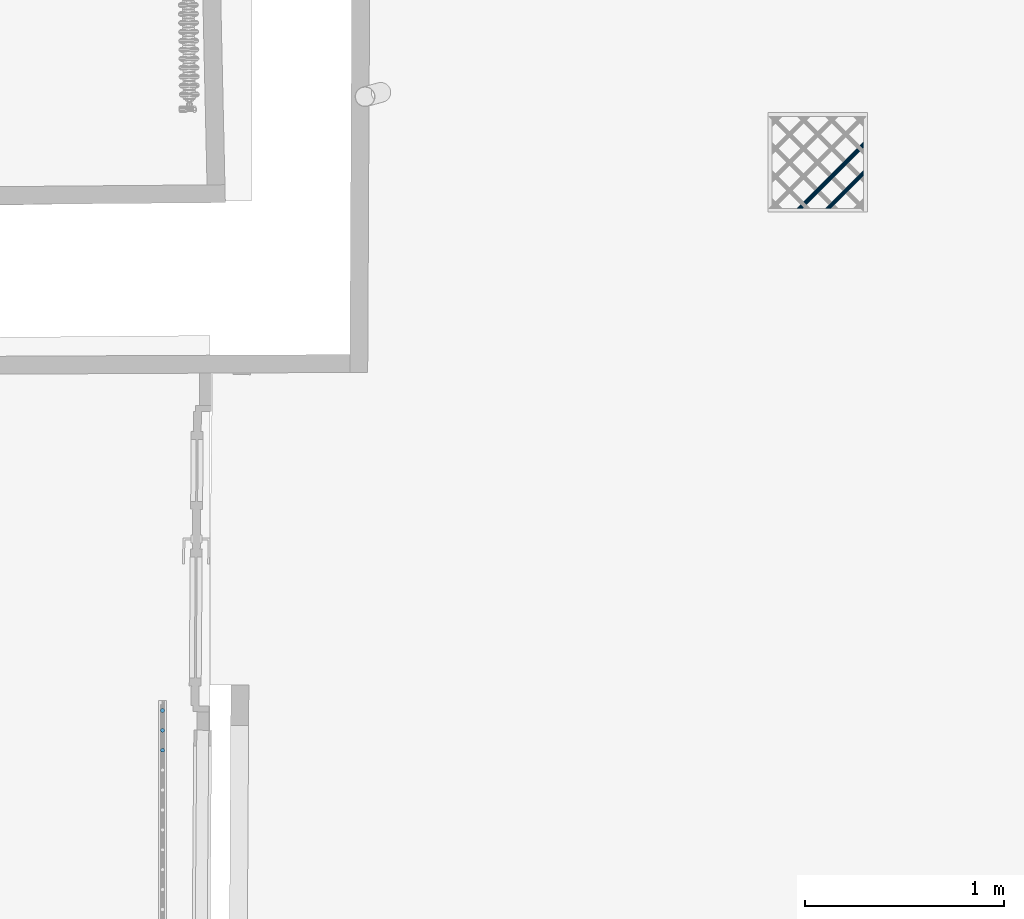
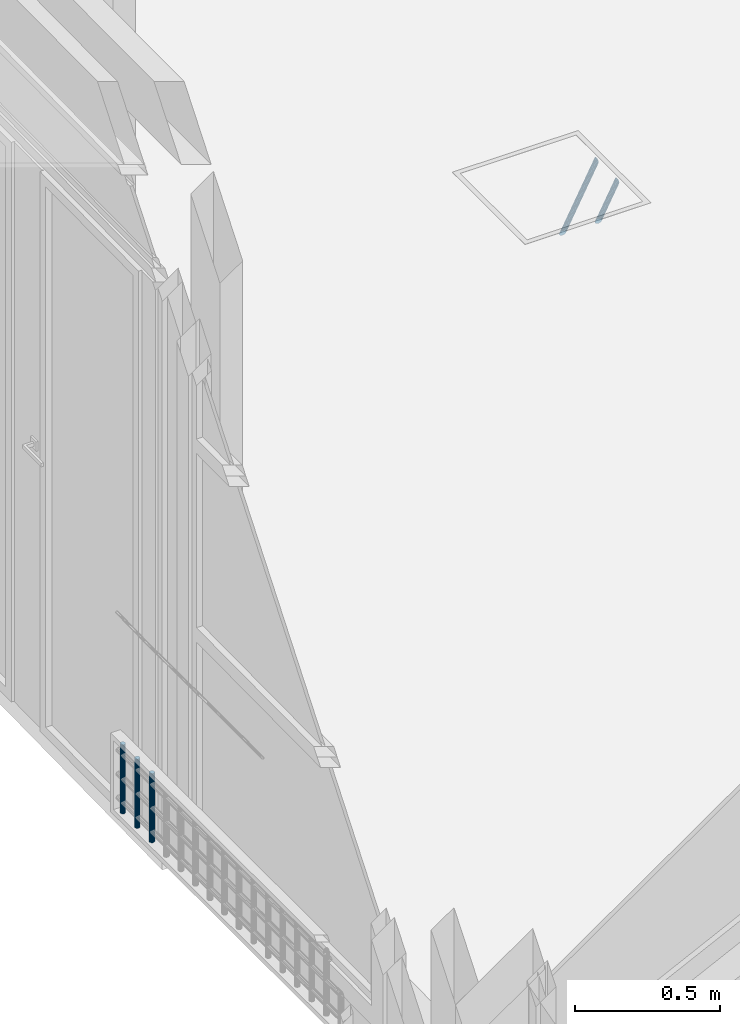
# One storey, part 79 of 133: 5 members, 2 elements without a shape of their own.
"""IFC2X3 building model written with IfcOpenShell, lengths in centimetres."""

from ifc_helpers import new_model, entity, si_unit, converted_unit, direction, frame, origin, origin_with_axes, place, context, subcontext, project, spatial, faceted_brep, material, type_object, element, aggregate, save


model = new_model("IFC2X3")

# Units and contexts
model_context = context("Model", 3, precision=0.0001, world=origin(), true_north=direction((0.225632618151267, 0.974212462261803, 0.0)))
body_context = subcontext(model_context, "Body", "Model", "MODEL_VIEW")
ifc_project = project(units=[si_unit("LENGTHUNIT", "METRE", prefix="CENTI"), si_unit("AREAUNIT", "SQUARE_METRE", prefix="CENTI"), si_unit("VOLUMEUNIT", "CUBIC_METRE", prefix="CENTI"), converted_unit("PLANEANGLEUNIT", "DEGREE", entity("IfcRatioMeasure", 0.0174532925), si_unit("PLANEANGLEUNIT", "RADIAN"), dimensions=[0, 0, 0, 0, 0, 0, 0])], contexts=[model_context])

# Site, building, storey
site_placement = place(None, origin_with_axes())
site = spatial("IfcSite", under=ifc_project, at=site_placement, Name="Default Site", CompositionType="ELEMENT")
building_placement = place(site_placement, origin_with_axes())
building = spatial("IfcBuilding", under=site, at=building_placement, Name="Default Building", CompositionType="ELEMENT")
storey_placement = place(building_placement, frame((0.0, 0.0, -291.400371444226), z_axis=(0.0, 0.0, 1.0), x_axis=(1.0, 0.0, 0.0)))
storey = spatial("IfcBuildingStorey", under=building, at=storey_placement, Name="Rez-de-Jardin", CompositionType="ELEMENT", Elevation=-291.400371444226)

# Assembly, members
building_element_proxy_type = type_object("IfcBuildingElementProxyType", Name="Type Object", PredefinedType="NOTDEFINED")
assembly_1_placement = place(storey_placement, frame((1053.90827276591, -19.9208693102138, 18.0), z_axis=(0.0, 0.0, 1.0), x_axis=(-1.22124532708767e-15, -1.0, 0.0)))
assembly_1 = element("IfcElementAssembly", 1, at=assembly_1_placement, inside=storey, type_object=building_element_proxy_type, Name="Panneau 73504", ObjectType="Precast panel", PredefinedType="USERDEFINED")
ifc_material_1 = material(Name="Beige")
member_1_placement = place(assembly_1_placement, frame((5.93969263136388, 0.3420201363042, 31.0000002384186), z_axis=(0.0, 0.0, 1.0), x_axis=(0.499999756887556, -0.866025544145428, 0.0)))
member_1 = element("IfcMember", 2, at=member_1_placement, material=ifc_material_1, Name="4294966791", context=body_context, shape_type="Brep", body=[
    faceted_brep([(-3.36536354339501e-14, 3.46944695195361e-14, 5.55111512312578e-14), (-0.347296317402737, 3.53883589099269e-14, 5.55111512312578e-14), (-0.673648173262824, -0.118782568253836, 5.55111512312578e-14), (-0.939692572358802, -0.342020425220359, 5.55111512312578e-14), (-1.11334056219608, -0.642787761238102, 5.55111512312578e-14), (-1.1736478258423, -0.984807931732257, 5.55111512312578e-14), (-1.11334042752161, -1.32682817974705, 5.55111512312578e-14), (-0.939692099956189, -1.62759551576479, 5.55111512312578e-14), (-0.673647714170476, -1.8508334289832, 5.55111512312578e-14), (-0.347295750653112, -1.96961548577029, 5.55111512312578e-14), (5.66749590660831e-07, -1.96961548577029, 5.55111512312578e-14), (0.326352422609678, -1.85083291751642, 5.55111512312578e-14), (0.592396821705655, -1.62759506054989, 5.55111512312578e-14), (0.766044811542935, -1.32682772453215, 5.55111512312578e-14), (0.826352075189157, -0.984807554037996, 5.55111512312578e-14), (0.766044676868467, -0.642787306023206, 5.55111512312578e-14), (0.592396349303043, -0.342019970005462, 5.55111512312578e-14), (0.326351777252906, -0.118782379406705, 5.55111512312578e-14), (0.326351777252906, -0.118782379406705, -29.000000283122), (0.592396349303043, -0.342019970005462, -29.000000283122), (0.766044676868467, -0.642787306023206, -29.000000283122), (0.826352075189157, -0.984807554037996, -29.000000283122), (0.766044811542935, -1.32682772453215, -29.000000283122), (0.592396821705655, -1.62759506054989, -29.000000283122), (0.326352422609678, -1.85083291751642, -29.000000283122), (5.66749590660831e-07, -1.96961548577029, -29.000000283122), (-0.347295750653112, -1.96961548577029, -29.000000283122), (-0.673647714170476, -1.8508334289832, -29.000000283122), (-0.939692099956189, -1.62759551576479, -29.000000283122), (-1.11334042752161, -1.32682817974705, -29.000000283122), (-1.1736478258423, -0.984807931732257, -29.000000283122), (-1.11334056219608, -0.642787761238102, -29.000000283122), (-0.939692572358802, -0.342020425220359, -29.000000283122), (-0.673648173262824, -0.118782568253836, -29.000000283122), (-0.347296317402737, 3.53883589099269e-14, -29.000000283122), (-3.36536354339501e-14, 3.46944695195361e-14, -29.000000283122), (0.592396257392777, -0.342020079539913, 5.55111512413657e-14), (0.592396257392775, -0.342020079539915, -29.000000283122), (0.326351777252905, -0.118782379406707, -29.000000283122), (0.766044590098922, -0.642787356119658, 5.55111512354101e-14), (0.766044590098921, -0.642787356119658, -29.000000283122), (0.592396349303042, -0.342019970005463, -29.000000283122), (0.826352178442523, -0.984807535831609, 5.55111512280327e-14), (0.826352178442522, -0.98480753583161, -29.000000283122), (0.766044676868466, -0.642787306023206, -29.000000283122), (0.76604479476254, -1.32682772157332, 5.55111512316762e-14), (0.76604479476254, -1.32682772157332, -29.000000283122), (0.826352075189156, -0.984807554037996, -29.000000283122), (0.326352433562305, -1.85083293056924, 5.55111512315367e-14), (0.326352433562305, -1.85083293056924, -29.000000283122), (0.592396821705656, -1.62759506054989, -29.000000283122), (5.30890045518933e-07, -1.96961538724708, 5.55111512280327e-14), (5.30890045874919e-07, -1.96961538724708, -29.000000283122), (-0.347295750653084, -1.96961558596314, 5.55111512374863e-14), (-0.347295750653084, -1.96961558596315, -29.000000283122), (5.66749590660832e-07, -1.96961548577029, -29.000000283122), (-0.673647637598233, -1.85083321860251, 5.55111512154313e-14), (-0.673647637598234, -1.85083321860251, -29.000000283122), (-0.347295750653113, -1.96961548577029, -29.000000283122), (-0.939692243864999, -1.62759568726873, 5.55111512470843e-14), (-0.939692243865, -1.62759568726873, -29.000000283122), (-0.673647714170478, -1.85083342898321, -29.000000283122), (-1.11334034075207, -1.3268281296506, 5.55111512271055e-14), (-1.11334034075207, -1.3268281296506, -29.000000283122), (-0.93969209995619, -1.62759551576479, -29.000000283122), (-1.17364792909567, -0.984807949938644, 5.55111512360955e-14), (-1.17364792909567, -0.984807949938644, -29.000000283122), (-1.11334054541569, -0.642787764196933, 5.55111512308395e-14), (-1.11334054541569, -0.642787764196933, -29.000000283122), (-0.673648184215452, -0.118782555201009, 5.55111512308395e-14), (-0.673648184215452, -0.11878255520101, -29.000000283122), (-0.939692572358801, -0.342020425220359, -29.000000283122), (-0.347296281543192, -9.85231767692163e-08, 5.55111512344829e-14), (-0.347296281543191, -9.8523177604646e-08, -29.000000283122), (-0.673648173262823, -0.118782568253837, -29.000000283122), (-6.25586590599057e-14, 1.00192890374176e-07, 5.55111512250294e-14), (-6.25586585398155e-14, 1.00192888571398e-07, -29.000000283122), (-0.347296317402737, 3.358558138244e-14, -29.000000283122), (0.326351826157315, -0.118782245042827, 5.55111512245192e-14), (0.326351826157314, -0.118782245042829, -29.000000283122), (-3.41210724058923e-14, 3.3410195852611e-14, -29.000000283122)], [[[0, 1, 2, 3, 4, 5, 6, 7, 8, 9, 10, 11, 12, 13, 14, 15, 16, 17]], [[18, 19, 20, 21, 22, 23, 24, 25, 26, 27, 28, 29, 30, 31, 32, 33, 34, 35]], [[17, 36, 37, 38]], [[16, 39, 40, 41]], [[15, 42, 43, 44]], [[14, 45, 46, 47]], [[13, 12, 23, 22]], [[12, 48, 49, 50]], [[11, 51, 52, 24]], [[10, 53, 54, 55]], [[9, 56, 57, 58]], [[8, 59, 60, 61]], [[7, 62, 63, 64]], [[6, 65, 66, 29]], [[5, 67, 68, 30]], [[4, 3, 32, 31]], [[3, 69, 70, 71]], [[2, 72, 73, 74]], [[1, 75, 76, 77]], [[0, 78, 79, 80]]]),
])
member_2_placement = place(assembly_1_placement, frame((15.9396931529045, 0.3420201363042, 31.0000002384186), z_axis=(0.0, 0.0, 1.0), x_axis=(0.500002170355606, -0.866024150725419, 0.0)))
member_2 = element("IfcMember", 3, at=member_2_placement, material=ifc_material_1, Name="4294966790", context=body_context, shape_type="Brep", body=[
    faceted_brep([(-1.23512311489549e-13, -4.9960036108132e-14, 4.44089209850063e-14), (-0.347296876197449, -4.71844785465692e-14, 4.44089209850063e-14), (-0.673648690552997, -0.118781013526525, 4.44089209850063e-14), (-0.939693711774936, -0.342018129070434, 4.44089209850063e-14), (-1.11334291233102, -0.642785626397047, 4.44089209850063e-14), (-1.17365112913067, -0.984805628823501, 4.44089209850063e-14), (-1.11334431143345, -1.32682539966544, 4.44089209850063e-14), (-0.939696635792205, -1.62759289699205, 4.44089209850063e-14), (-0.673653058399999, -1.85083187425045, 4.44089209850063e-14), (-0.34730123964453, -1.96961451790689, 4.44089209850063e-14), (-5.10850849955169e-06, -1.96961580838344, 4.44089209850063e-14), (0.326346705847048, -1.85083479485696, 4.44089209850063e-14), (0.592391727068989, -1.62759767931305, 4.44089209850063e-14), (0.766040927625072, -1.32683018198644, 4.44089209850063e-14), (0.826349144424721, -0.984810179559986, 4.44089209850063e-14), (0.766042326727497, -0.64279040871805, 4.44089209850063e-14), (0.592395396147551, -0.34202162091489, 4.44089209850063e-14), (0.326351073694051, -0.11878393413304, 4.44089209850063e-14), (0.326351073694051, -0.11878393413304, -29.000000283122), (0.592395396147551, -0.34202162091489, -29.000000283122), (0.766042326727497, -0.64279040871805, -29.000000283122), (0.826349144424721, -0.984810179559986, -29.000000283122), (0.766040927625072, -1.32683018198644, -29.000000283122), (0.592391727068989, -1.62759767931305, -29.000000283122), (0.326346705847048, -1.85083479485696, -29.000000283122), (-5.10850849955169e-06, -1.96961580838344, -29.000000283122), (-0.34730123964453, -1.96961451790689, -29.000000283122), (-0.673653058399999, -1.85083187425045, -29.000000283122), (-0.939696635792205, -1.62759289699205, -29.000000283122), (-1.11334431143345, -1.32682539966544, -29.000000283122), (-1.17365112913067, -0.984805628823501, -29.000000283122), (-1.11334291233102, -0.642785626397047, -29.000000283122), (-0.939693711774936, -0.342018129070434, -29.000000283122), (-0.673648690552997, -0.118781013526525, -29.000000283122), (-0.347296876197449, -4.71844785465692e-14, -29.000000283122), (-1.23512311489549e-13, -4.9960036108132e-14, -29.000000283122), (0.59239483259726, -0.342022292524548, 4.44089210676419e-14), (0.592394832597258, -0.34202229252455, -29.000000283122), (0.326351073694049, -0.118783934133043, -29.000000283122), (0.766043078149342, -0.642789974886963, 4.44089209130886e-14), (0.76604307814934, -0.642789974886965, -29.000000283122), (0.592395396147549, -0.342021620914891, -29.000000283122), (0.826348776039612, -0.984810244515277, 4.44089210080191e-14), (0.82634877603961, -0.984810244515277, -29.000000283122), (0.766042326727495, -0.64279040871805, -29.000000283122), (0.766040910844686, -1.32683017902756, 4.4408920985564e-14), (0.766040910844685, -1.32683017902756, -29.000000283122), (0.82634914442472, -0.984810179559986, -29.000000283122), (0.326346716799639, -1.85083480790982, 4.4408920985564e-14), (0.32634671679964, -1.85083480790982, -29.000000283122), (-4.98057063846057e-06, -1.96961615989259, 4.44089210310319e-14), (-4.98057063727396e-06, -1.96961615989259, -29.000000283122), (0.32634670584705, -1.85083479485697, -29.000000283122), (-0.347301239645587, -1.96961494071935, 4.44089210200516e-14), (-0.347301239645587, -1.96961494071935, -29.000000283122), (-0.673652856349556, -1.85083131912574, 4.4408920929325e-14), (-0.673652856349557, -1.85083131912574, -29.000000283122), (-0.347301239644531, -1.96961451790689, -29.000000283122), (-0.939697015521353, -1.62759334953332, 4.44089210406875e-14), (-0.939697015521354, -1.62759334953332, -29.000000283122), (-0.673653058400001, -1.85083187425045, -29.000000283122), (-1.11334394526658, -1.32682518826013, 4.44089209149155e-14), (-1.11334394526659, -1.32682518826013, -29.000000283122), (-0.939696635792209, -1.62759289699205, -29.000000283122), (-1.17365076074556, -0.98480556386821, 4.44089209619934e-14), (-1.17365076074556, -0.984805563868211, -29.000000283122), (-1.11334289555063, -0.642785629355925, 4.44089209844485e-14), (-1.11334289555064, -0.642785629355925, -29.000000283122), (-0.939693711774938, -0.342018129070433, 4.44089209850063e-14), (-0.939693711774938, -0.342018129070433, -29.000000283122), (-0.673648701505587, -0.11878100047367, 4.44089209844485e-14), (-0.673648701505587, -0.118781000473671, -29.000000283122), (-0.939693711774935, -0.342018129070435, -29.000000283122), (-0.34729700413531, 3.51509102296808e-07, 4.44089209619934e-14), (-0.347297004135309, 3.51509100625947e-07, -29.000000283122), (-0.673648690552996, -0.118781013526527, -29.000000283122), (-2.29123754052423e-12, -8.67665998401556e-07, 4.44089210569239e-14), (-2.2912375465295e-12, -8.67666000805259e-07, -29.000000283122), (-0.347296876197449, -4.9588182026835e-14, -29.000000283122), (0.32635137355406, -0.118783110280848, 4.44089209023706e-14), (0.326351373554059, -0.11878311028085, -29.000000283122), (-1.24447192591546e-13, -5.25285808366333e-14, -29.000000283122)], [[[0, 1, 2, 3, 4, 5, 6, 7, 8, 9, 10, 11, 12, 13, 14, 15, 16, 17]], [[18, 19, 20, 21, 22, 23, 24, 25, 26, 27, 28, 29, 30, 31, 32, 33, 34, 35]], [[17, 36, 37, 38]], [[16, 39, 40, 41]], [[15, 42, 43, 44]], [[14, 45, 46, 47]], [[13, 12, 23, 22]], [[12, 48, 49, 23]], [[11, 50, 51, 52]], [[10, 53, 54, 25]], [[9, 55, 56, 57]], [[8, 58, 59, 60]], [[7, 61, 62, 63]], [[6, 64, 65, 29]], [[5, 66, 67, 30]], [[4, 68, 69, 31]], [[3, 70, 71, 72]], [[2, 73, 74, 75]], [[1, 76, 77, 78]], [[0, 79, 80, 81]]]),
])
member_3_placement = place(assembly_1_placement, frame((25.9396940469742, 0.3420201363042, 31.0000002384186), z_axis=(0.0, 0.0, 1.0), x_axis=(0.500002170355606, -0.866024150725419, 0.0)))
member_3 = element("IfcMember", 4, at=member_3_placement, material=ifc_material_1, Name="4294966789", context=body_context, shape_type="Brep", body=[
    faceted_brep([(-5.55111512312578e-15, -7.21644966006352e-14, 4.44089209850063e-14), (-0.347296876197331, -7.21644966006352e-14, 4.44089209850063e-14), (-0.673649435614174, -0.118782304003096, 4.44089209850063e-14), (-0.939693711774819, -0.342018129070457, 4.44089209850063e-14), (-1.1133429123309, -0.642785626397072, 4.44089209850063e-14), (-1.17365112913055, -0.984805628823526, 4.44089209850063e-14), (-1.11334505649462, -1.32682669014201, 4.44089209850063e-14), (-0.939697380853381, -1.62759418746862, 4.44089209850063e-14), (-0.673653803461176, -1.85083316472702, 4.44089209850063e-14), (-0.347301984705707, -1.96961580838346, 4.44089209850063e-14), (-5.85356967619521e-06, -1.96961709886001, 4.44089209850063e-14), (0.326346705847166, -1.85083479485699, 4.44089209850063e-14), (0.592391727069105, -1.62759767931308, 4.44089209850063e-14), (0.766040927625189, -1.32683018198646, 4.44089209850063e-14), (0.826348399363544, -0.984811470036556, 4.44089209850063e-14), (0.766042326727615, -0.642790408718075, 4.44089209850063e-14), (0.592395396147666, -0.342021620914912, 4.44089209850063e-14), (0.326350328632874, -0.118785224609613, 4.44089209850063e-14), (0.326350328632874, -0.118785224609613, -29.000000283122), (0.592395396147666, -0.342021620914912, -29.000000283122), (0.766042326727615, -0.642790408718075, -29.000000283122), (0.826348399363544, -0.984811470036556, -29.000000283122), (0.766040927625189, -1.32683018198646, -29.000000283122), (0.592391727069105, -1.62759767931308, -29.000000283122), (0.326346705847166, -1.85083479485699, -29.000000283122), (-5.85356967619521e-06, -1.96961709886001, -29.000000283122), (-0.347301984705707, -1.96961580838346, -29.000000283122), (-0.673653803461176, -1.85083316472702, -29.000000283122), (-0.939697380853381, -1.62759418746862, -29.000000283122), (-1.11334505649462, -1.32682669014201, -29.000000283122), (-1.17365112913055, -0.984805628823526, -29.000000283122), (-1.1133429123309, -0.642785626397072, -29.000000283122), (-0.939693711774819, -0.342018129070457, -29.000000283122), (-0.673649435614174, -0.118782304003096, -29.000000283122), (-0.347296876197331, -7.21644966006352e-14, -29.000000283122), (-5.55111512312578e-15, -7.21644966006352e-14, -29.000000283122), (0.592393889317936, -0.342023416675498, 4.44089209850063e-14), (0.592393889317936, -0.342023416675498, -29.000000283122), (0.766043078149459, -0.642789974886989, 4.4408920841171e-14), (0.766043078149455, -0.642789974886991, -29.000000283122), (0.592395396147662, -0.342021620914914, -29.000000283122), (0.826348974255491, -0.984811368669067, 4.44089209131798e-14), (0.826348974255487, -0.984811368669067, -29.000000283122), (0.766042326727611, -0.642790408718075, -29.000000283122), (0.766040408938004, -1.32683009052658, 4.44089210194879e-14), (0.766040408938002, -1.32683009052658, -29.000000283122), (0.826348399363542, -0.984811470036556, -29.000000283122), (0.592391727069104, -1.62759767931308, 4.44089209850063e-14), (0.592391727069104, -1.62759767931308, -29.000000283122), (0.326346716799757, -1.85083480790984, 4.4408920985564e-14), (0.326346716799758, -1.85083480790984, -29.000000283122), (0.592391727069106, -1.62759767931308, -29.000000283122), (-6.05322607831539e-06, -1.96961655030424, 4.44089209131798e-14), (-6.05322607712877e-06, -1.96961655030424, -29.000000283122), (0.326346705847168, -1.85083479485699, -29.000000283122), (-0.347301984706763, -1.96961623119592, 4.44089210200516e-14), (-0.347301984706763, -1.96961623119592, -29.000000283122), (-5.85356967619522e-06, -1.96961709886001, -29.000000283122), (-0.673653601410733, -1.85083260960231, 4.4408920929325e-14), (-0.673653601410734, -1.85083260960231, -29.000000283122), (-0.347301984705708, -1.96961580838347, -29.000000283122), (-0.939697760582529, -1.62759464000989, 4.44089210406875e-14), (-0.939697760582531, -1.62759464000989, -29.000000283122), (-0.673653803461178, -1.85083316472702, -29.000000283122), (-1.11334469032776, -1.3268264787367, 4.44089209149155e-14), (-1.11334469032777, -1.3268264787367, -29.000000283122), (-0.939697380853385, -1.62759418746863, -29.000000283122), (-1.1736517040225, -0.984805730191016, 4.44089210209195e-14), (-1.1736517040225, -0.984805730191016, -29.000000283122), (-1.11334289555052, -0.64278562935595, 4.44089209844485e-14), (-1.11334289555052, -0.64278562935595, -29.000000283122), (-0.939693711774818, -0.342018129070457, 4.44089209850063e-14), (-0.939693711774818, -0.342018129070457, -29.000000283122), (-0.673649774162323, -0.118781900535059, 4.44089209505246e-14), (-0.673649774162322, -0.118781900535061, -29.000000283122), (-0.939693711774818, -0.342018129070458, -29.000000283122), (-0.347296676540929, -5.48555845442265e-07, 4.44089210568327e-14), (-0.347296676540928, -5.48555848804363e-07, -29.000000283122), (-0.673649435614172, -0.118782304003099, -29.000000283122), (-2.1732763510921e-12, -8.67666023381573e-07, 4.44089209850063e-14), (-2.1732763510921e-12, -8.67666023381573e-07, -29.000000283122), (0.326351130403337, -0.118783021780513, 4.44089205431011e-14), (0.326351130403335, -0.118783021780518, -29.000000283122), (-7.42087732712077e-15, -7.73015860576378e-14, -29.000000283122)], [[[0, 1, 2, 3, 4, 5, 6, 7, 8, 9, 10, 11, 12, 13, 14, 15, 16, 17]], [[18, 19, 20, 21, 22, 23, 24, 25, 26, 27, 28, 29, 30, 31, 32, 33, 34, 35]], [[17, 36, 37, 18]], [[16, 38, 39, 40]], [[15, 41, 42, 43]], [[14, 44, 45, 46]], [[13, 47, 48, 22]], [[12, 49, 50, 51]], [[11, 52, 53, 54]], [[10, 55, 56, 57]], [[9, 58, 59, 60]], [[8, 61, 62, 63]], [[7, 64, 65, 66]], [[6, 67, 68, 29]], [[5, 69, 70, 30]], [[4, 71, 72, 31]], [[3, 73, 74, 75]], [[2, 76, 77, 78]], [[1, 79, 80, 34]], [[0, 81, 82, 83]]]),
])
aggregate(assembly_1, [member_1, member_2, member_3])

assembly_2_placement = place(storey_placement, frame((1358.14143246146, 225.4756620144, -2.0), z_axis=(0.0, 1.0, -2.38697950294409e-15), x_axis=(1.0, 0.0, 0.0)))
assembly_2 = element("IfcElementAssembly", 5, at=assembly_2_placement, inside=storey, type_object=building_element_proxy_type, Name="Panneau 134273", ObjectType="Precast panel", PredefinedType="USERDEFINED")
ifc_material_2 = material(Name="Aluminium satiné")
member_4_placement = place(assembly_2_placement, frame((47.9999989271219, 0.34202013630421, 32.5289368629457), z_axis=(0.999999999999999, 0.0, 0.0), x_axis=(0.0, -0.774594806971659, -0.632457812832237)))
member_4 = element("IfcMember", 6, at=member_4_placement, material=ifc_material_2, Name="4294966697", context=body_context, shape_type="Brep", body=[
    faceted_brep([(3.05311331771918e-14, -3.60822483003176e-14, 2.22044604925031e-14), (-0.388290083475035, -3.88578058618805e-14, 2.22044604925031e-14), (-0.799166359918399, -0.150246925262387, 2.22044604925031e-14), (-1.18307514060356, -0.432623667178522, 2.22044604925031e-14), (-1.49370756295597, -0.813066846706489, 2.22044604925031e-14), (-1.69359804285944, -1.24569095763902, 2.22044604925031e-14), (-1.7586366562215, -1.67831484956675, 2.22044604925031e-14), (-1.68098087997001, -2.05876033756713, 2.22044604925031e-14), (-1.4699932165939, -2.34113520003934, 2.22044604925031e-14), (-1.15112683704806, -2.49138695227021, 2.22044604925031e-14), (-0.762836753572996, -2.49138695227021, 2.22044604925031e-14), (-0.351960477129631, -2.34114002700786, 2.22044604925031e-14), (0.0319464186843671, -2.05876559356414, 2.22044604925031e-14), (0.342578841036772, -1.67832241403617, 2.22044604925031e-14), (0.54247120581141, -1.24569599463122, 2.22044604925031e-14), (0.607509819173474, -0.813072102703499, 2.22044604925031e-14), (0.529854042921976, -0.432626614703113, 2.22044604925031e-14), (0.318866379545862, -0.150251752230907, 2.22044604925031e-14), (19.5731916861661, 23.4312426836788, -30.4436504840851), (19.8381187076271, 23.2149293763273, -30.5289372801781), (20.0710916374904, 23.0247066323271, -30.774512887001), (20.244010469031, 22.8835181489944, -31.1507567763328), (20.3360186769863, 22.80839331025, -31.6122874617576), (20.3360186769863, 22.80839331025, -32.1034386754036), (20.244010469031, 22.8835181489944, -32.5649693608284), (20.0710916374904, 23.0247066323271, -32.9412132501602), (19.8381187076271, 23.2149293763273, -33.1867888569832), (19.5731916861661, 23.4312426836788, -33.2720771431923), (19.3082646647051, 23.6475559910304, -33.1867888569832), (19.0752917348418, 23.8377787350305, -32.9412132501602), (18.9023729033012, 23.9789672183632, -32.5649693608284), (18.8103646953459, 24.0540920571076, -32.1034386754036), (18.8103646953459, 24.0540920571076, -31.6122874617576), (18.9023729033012, 23.9789672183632, -31.1507567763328), (19.0752917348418, 23.8377787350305, -30.774512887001), (19.3082646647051, 23.6475559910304, -30.5289372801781), (0.529853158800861, -0.432627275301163, -1.07086510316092e-06), (19.8381179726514, 23.2149288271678, -30.5289381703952), (19.5731912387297, 23.4312423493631, -30.4436510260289), (0.607510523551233, -0.813071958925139, 5.56859210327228e-07), (20.0710918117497, 23.0247066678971, -30.774512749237), (19.8381188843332, 23.2149294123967, -30.5289371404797), (0.542470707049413, -1.24569591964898, -2.57365044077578e-07), (20.2440101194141, 22.8835182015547, -31.1507569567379), (20.0710911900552, 23.024706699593, -30.7745131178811), (0.342579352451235, -1.67832265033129, 1.40415126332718e-07), (20.3360186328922, 22.8083933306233, -31.6122874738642), (20.2440105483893, 22.8835181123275, -31.150756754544), (-0.351960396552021, -2.34114013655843, -3.3895342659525e-08), (20.2440109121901, 22.8835175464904, -32.5649695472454), (20.3360190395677, 22.8083928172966, -32.1034388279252), (-0.762836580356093, -2.49138742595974, -2.57365044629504e-07), (20.0710919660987, 23.0247057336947, -32.9412137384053), (20.244010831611, 22.883517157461, -32.5649698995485), (-1.15112683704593, -2.4913862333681, 5.56859211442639e-07), (19.8381187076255, 23.2149288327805, -33.1867892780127), (20.0710916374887, 23.0247060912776, -32.9412136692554), (-1.46999368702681, -2.34113619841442, -1.07086510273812e-06), (19.5731912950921, 23.4312418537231, -33.2720780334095), (19.8381181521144, 23.2149281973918, -33.1867901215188), (-1.6809799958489, -2.05875967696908, 1.07086514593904e-06), (19.308264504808, 23.6475558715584, -33.1867890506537), (19.5731918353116, 23.4312427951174, -33.2720769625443), (-1.75863736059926, -1.67831499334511, -5.56859166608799e-07), (19.0752905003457, 23.8377784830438, -32.9412142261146), (19.3082634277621, 23.6475557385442, -33.1867898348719), (-1.69359754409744, -1.24569103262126, 2.57365088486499e-07), (18.9023723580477, 23.9789673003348, -32.5649696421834), (19.0752912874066, 23.8377788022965, -32.9412134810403), (-1.49370743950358, -0.813066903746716, 3.38953879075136e-08), (18.8103642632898, 24.0540922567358, -32.1034387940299), (18.9023723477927, 23.9789674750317, -32.5649695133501), (-0.799166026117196, -0.150247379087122, -1.40415081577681e-07), (18.902373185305, 23.9789668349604, -31.1507568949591), (18.8103650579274, 24.0540915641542, -31.6122876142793), (-0.388290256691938, 4.73689491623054e-07, 2.57365089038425e-07), (19.0752917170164, 23.8377787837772, -30.774512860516), (18.9023728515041, 23.9789673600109, -31.1507566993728), (-2.09909421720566e-12, -7.18902149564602e-07, -5.56859168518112e-07), (19.3082646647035, 23.6475554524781, -30.5289376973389), (19.0752917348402, 23.837778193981, -30.7745133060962), (0.318866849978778, -0.150250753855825, 1.07086514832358e-06), (19.5731919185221, 23.4312431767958, -30.4436499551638), (19.3082647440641, 23.6475561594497, -30.5289370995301)], [[[0, 1, 2, 3, 4, 5, 6, 7, 8, 9, 10, 11, 12, 13, 14, 15, 16, 17]], [[18, 19, 20, 21, 22, 23, 24, 25, 26, 27, 28, 29, 30, 31, 32, 33, 34, 35]], [[17, 36, 37, 38]], [[16, 39, 40, 41]], [[15, 42, 43, 44]], [[14, 45, 46, 47]], [[13, 12, 23, 22]], [[12, 48, 49, 50]], [[11, 51, 52, 53]], [[10, 54, 55, 56]], [[9, 57, 58, 59]], [[8, 60, 61, 62]], [[7, 63, 64, 65]], [[6, 66, 67, 68]], [[5, 69, 70, 71]], [[4, 3, 32, 31]], [[3, 72, 73, 74]], [[2, 75, 76, 77]], [[1, 78, 79, 80]], [[0, 81, 82, 83]]]),
])
member_5_placement = place(assembly_2_placement, frame((47.9999989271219, 0.3420201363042, 18.3868020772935), z_axis=(0.999999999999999, 0.0, 0.0), x_axis=(0.0, -0.774596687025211, -0.632455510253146)))
member_5 = element("IfcMember", 7, at=member_5_placement, material=ifc_material_2, Name="4294966696", context=body_context, shape_type="Brep", body=[
    faceted_brep([(8.32667268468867e-15, -6.93889390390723e-14, -1.55431223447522e-13), (-0.388289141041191, -6.66133814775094e-14, -1.55431223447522e-13), (-0.799165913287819, -0.150249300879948, -1.55431223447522e-13), (-1.18307291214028, -0.432626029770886, -1.55431223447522e-13), (-1.49370420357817, -0.813070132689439, -1.55431223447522e-13), (-1.69359339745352, -1.24569483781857, -1.55431223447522e-13), (-1.75863166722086, -1.6783200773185, -1.55431223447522e-13), (-1.68097381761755, -2.05876418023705, -1.55431223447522e-13), (-1.46998625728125, -2.3411395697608, -1.55431223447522e-13), (-1.15111848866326, -2.4913892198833, -1.55431223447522e-13), (-0.76282934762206, -2.4913892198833, -1.55431223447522e-13), (-0.35195257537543, -2.34113991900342, -1.55431223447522e-13), (0.0319534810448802, -2.05876434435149, -1.55431223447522e-13), (0.342584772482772, -1.67832024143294, -1.55431223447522e-13), (0.542474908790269, -1.2456943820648, -1.55431223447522e-13), (0.607513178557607, -0.813069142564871, -1.55431223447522e-13), (0.529855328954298, -0.432625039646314, -1.55431223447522e-13), (0.318867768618, -0.150249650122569, -1.55431223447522e-13), (10.628850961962, 12.4768501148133, -16.3015127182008), (10.8937786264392, 12.2605375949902, -16.3868010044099), (11.1267521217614, 12.0703155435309, -16.632378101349), (11.2996713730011, 11.9291275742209, -17.0086205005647), (11.3916798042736, 11.8540030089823, -17.4701511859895), (11.3916798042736, 11.8540030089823, -17.9613023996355), (11.2996713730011, 11.9291275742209, -18.4228330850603), (11.1267521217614, 12.0703155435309, -18.7990784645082), (10.8937786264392, 12.2605375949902, -19.0446525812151), (10.628850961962, 12.4768501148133, -19.1299408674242), (10.3639232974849, 12.6931626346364, -19.0446525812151), (10.1309498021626, 12.8833846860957, -18.7990784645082), (9.95803055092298, 13.0245726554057, -18.4228330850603), (9.8660221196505, 13.0996972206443, -17.9613023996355), (9.8660221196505, 13.0996972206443, -17.4701511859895), (9.95803055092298, 13.0245726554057, -17.0086205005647), (10.1309498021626, 12.8833846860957, -16.632378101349), (10.3639232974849, 12.6931626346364, -16.3868010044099), (0.529855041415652, -0.432625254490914, -3.482734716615e-07), (10.8937778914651, 12.2605370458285, -16.3868018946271), (10.6288499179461, 12.4768493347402, -16.3015139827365), (0.607513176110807, -0.813069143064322, -1.93452124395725e-09), (11.1267522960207, 12.0703155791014, -16.632377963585), (10.8937780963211, 12.2605374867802, -16.3868014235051), (0.542475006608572, -1.24569439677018, 5.04748265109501e-08), (11.299671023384, 11.9291276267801, -17.0086206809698), (11.1267522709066, 12.0703155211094, -16.632378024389), (0.342584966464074, -1.6783203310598, 5.32597135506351e-08), (11.3916794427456, 11.8540031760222, -17.4701512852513), (11.2996711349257, 11.9291276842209, -17.0086205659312), (-0.351952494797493, -2.34114002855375, -3.38955207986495e-08), (11.2996718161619, 11.9291269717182, -18.4228332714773), (11.3916801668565, 11.85400251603, -17.9613025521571), (-0.762829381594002, -2.49138912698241, 5.04748267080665e-08), (11.1267522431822, 12.0703152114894, -18.7990786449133), (11.299671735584, 11.9291265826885, -18.4228336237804), (-1.15111848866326, -2.49138922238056, -1.93452235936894e-09), (10.8937786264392, 12.260536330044, -19.0446535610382), (11.1267521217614, 12.0703150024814, -18.7990788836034), (-1.46998641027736, -2.34113989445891, -3.482734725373e-07), (10.6288505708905, 12.4768492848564, -19.1299417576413), (10.89377807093, 12.260536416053, -19.0446538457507), (-1.6809735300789, -2.05876396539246, 3.48273161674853e-07), (10.3639225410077, 12.6931620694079, -19.0446534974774), (10.6288505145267, 12.4768497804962, -19.129941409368), (-1.75863166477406, -1.67832007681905, 1.9342110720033e-09), (10.1309492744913, 12.8833845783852, -18.799078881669), (10.3639220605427, 12.6931623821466, -19.0446535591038), (-1.69359349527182, -1.24569482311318, -5.04751377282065e-08), (9.95802940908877, 13.0245728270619, -18.4228336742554), (10.1309493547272, 12.8833847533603, -18.7990786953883), (-1.49370408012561, -0.813070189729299, 3.38952106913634e-08), (9.86602168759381, 13.0996974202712, -17.9613025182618), (9.95802999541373, 13.0245729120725, -18.4228332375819), (-0.799165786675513, -0.150249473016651, -5.32600242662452e-08), (9.95803083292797, 13.0245722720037, -17.008620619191), (9.86602248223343, 13.099696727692, -17.4701513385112), (-0.38828910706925, -9.2900958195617e-08, -5.04751366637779e-08), (10.130949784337, 12.8833847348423, -16.632378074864), (9.95803070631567, 13.0245722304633, -17.0086207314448), (8.30097518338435e-15, 2.49718754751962e-09, 1.93421150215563e-09), (10.3639232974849, 12.6931620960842, -16.3868014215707), (10.1309498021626, 12.8833848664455, -16.6323779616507), (0.318867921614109, -0.150249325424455, 3.48273159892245e-07), (10.6288505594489, 12.4768492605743, -16.3015136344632), (10.3639230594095, 12.6931621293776, -16.3868015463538)], [[[0, 1, 2, 3, 4, 5, 6, 7, 8, 9, 10, 11, 12, 13, 14, 15, 16, 17]], [[18, 19, 20, 21, 22, 23, 24, 25, 26, 27, 28, 29, 30, 31, 32, 33, 34, 35]], [[17, 36, 37, 38]], [[16, 39, 40, 41]], [[15, 42, 43, 44]], [[14, 45, 46, 47]], [[13, 12, 23, 22]], [[12, 48, 49, 50]], [[11, 51, 52, 53]], [[10, 54, 55, 56]], [[9, 57, 58, 59]], [[8, 60, 61, 62]], [[7, 63, 64, 65]], [[6, 66, 67, 68]], [[5, 69, 70, 71]], [[4, 3, 32, 31]], [[3, 72, 73, 74]], [[2, 75, 76, 77]], [[1, 78, 79, 80]], [[0, 81, 82, 83]]]),
])
aggregate(assembly_2, [member_4, member_5])

save(model, "model.ifc")
